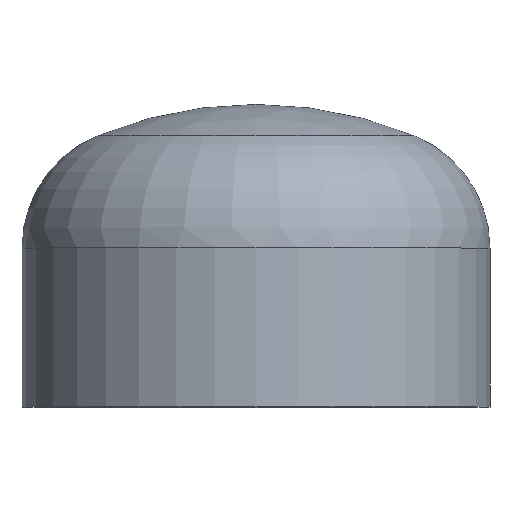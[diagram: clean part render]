
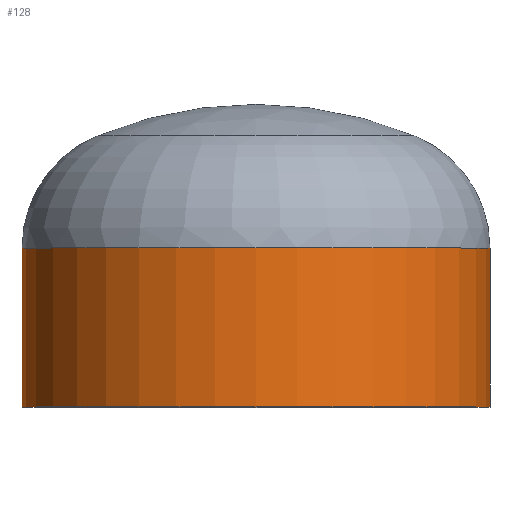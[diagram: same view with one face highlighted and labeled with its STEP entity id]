
A CAD part, top view. The second image highlights one B-rep face of the part: STEP entity #128.
In plain terms, the highlighted cylindrical face has radius 161.95 mm (diameter 323.9 mm), a partial arc.
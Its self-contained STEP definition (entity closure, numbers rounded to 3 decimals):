
#5 = AXIS2_PLACEMENT_3D ( 'NONE', #218, #383, #242 ) ;
#39 = LINE ( 'NONE', #233, #372 ) ;
#56 = AXIS2_PLACEMENT_3D ( 'NONE', #336, #297, #207 ) ;
#69 = AXIS2_PLACEMENT_3D ( 'NONE', #329, #327, #321 ) ;
#75 = ORIENTED_EDGE ( 'NONE', *, *, #391, .F. ) ;
#82 = EDGE_CURVE ( 'NONE', #271, #160, #39, .T. ) ;
#85 = EDGE_CURVE ( 'NONE', #271, #129, #378, .T. ) ;
#112 = LINE ( 'NONE', #178, #291 ) ;
#128 = ADVANCED_FACE ( 'NONE', ( #165 ), #359, .T. ) ;
#129 = VERTEX_POINT ( 'NONE', #299 ) ;
#137 = ORIENTED_EDGE ( 'NONE', *, *, #322, .T. ) ;
#146 = VERTEX_POINT ( 'NONE', #228 ) ;
#159 = ORIENTED_EDGE ( 'NONE', *, *, #82, .F. ) ;
#160 = VERTEX_POINT ( 'NONE', #217 ) ;
#165 = FACE_OUTER_BOUND ( 'NONE', #168, .T. ) ;
#168 = EDGE_LOOP ( 'NONE', ( #276, #137, #75, #159 ) ) ;
#175 = DIRECTION ( 'NONE',  ( 0., -1., 0. ) ) ;
#178 = CARTESIAN_POINT ( 'NONE',  ( -161.95, 0., 0. ) ) ;
#183 = CIRCLE ( 'NONE', #5, 161.95 ) ;
#207 = DIRECTION ( 'NONE',  ( 1., 0., 0. ) ) ;
#217 = CARTESIAN_POINT ( 'NONE',  ( 161.95, 0., 0. ) ) ;
#218 = CARTESIAN_POINT ( 'NONE',  ( 0., 0., 0. ) ) ;
#228 = CARTESIAN_POINT ( 'NONE',  ( -161.95, 0., 0. ) ) ;
#233 = CARTESIAN_POINT ( 'NONE',  ( 161.95, 0., 0. ) ) ;
#241 = DIRECTION ( 'NONE',  ( 0., -1., 0. ) ) ;
#242 = DIRECTION ( 'NONE',  ( 1., 0., 0. ) ) ;
#269 = CARTESIAN_POINT ( 'NONE',  ( 161.95, 110., 0. ) ) ;
#271 = VERTEX_POINT ( 'NONE', #269 ) ;
#276 = ORIENTED_EDGE ( 'NONE', *, *, #85, .T. ) ;
#291 = VECTOR ( 'NONE', #175, 1000. ) ;
#297 = DIRECTION ( 'NONE',  ( 0., -1., 0. ) ) ;
#299 = CARTESIAN_POINT ( 'NONE',  ( -161.95, 110., 0. ) ) ;
#321 = DIRECTION ( 'NONE',  ( 1., 0., 0. ) ) ;
#322 = EDGE_CURVE ( 'NONE', #129, #146, #112, .T. ) ;
#327 = DIRECTION ( 'NONE',  ( 0., -1., 0. ) ) ;
#329 = CARTESIAN_POINT ( 'NONE',  ( 0., 110., 0. ) ) ;
#336 = CARTESIAN_POINT ( 'NONE',  ( 0., 0., 0. ) ) ;
#359 = CYLINDRICAL_SURFACE ( 'NONE', #56, 161.95 ) ;
#372 = VECTOR ( 'NONE', #241, 1000. ) ;
#378 = CIRCLE ( 'NONE', #69, 161.95 ) ;
#383 = DIRECTION ( 'NONE',  ( 0., -1., 0. ) ) ;
#391 = EDGE_CURVE ( 'NONE', #160, #146, #183, .T. ) ;
